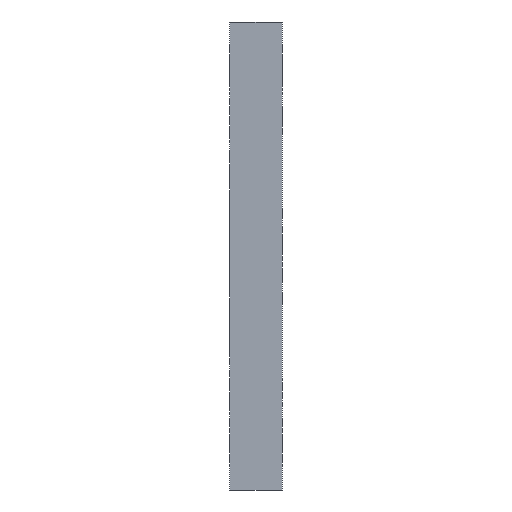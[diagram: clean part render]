
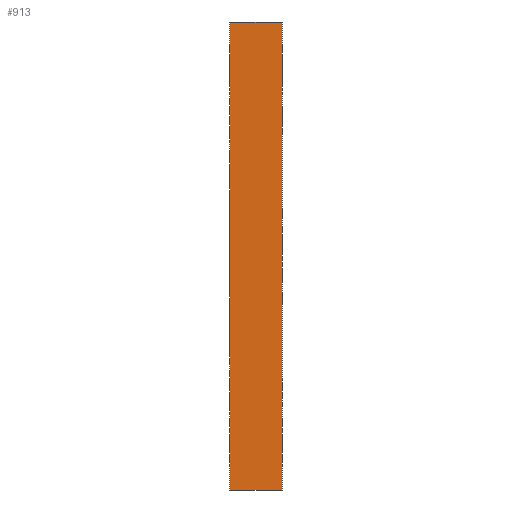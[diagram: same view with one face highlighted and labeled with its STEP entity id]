
A CAD part, front view. The second image highlights one B-rep face of the part: STEP entity #913.
In plain terms, the highlighted planar face has unit normal (0, -1, 0).
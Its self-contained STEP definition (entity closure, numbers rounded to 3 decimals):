
#4 = CARTESIAN_POINT ( 'NONE',  ( -22., -103., -98. ) ) ;
#21 = CARTESIAN_POINT ( 'NONE',  ( 0., -103., 0. ) ) ;
#35 = EDGE_CURVE ( 'NONE', #225, #558, #795, .T. ) ;
#52 = CARTESIAN_POINT ( 'NONE',  ( -22., -103., 98. ) ) ;
#143 = CARTESIAN_POINT ( 'NONE',  ( -11., -103., 0. ) ) ;
#225 = VERTEX_POINT ( 'NONE', #52 ) ;
#300 = ORIENTED_EDGE ( 'NONE', *, *, #630, .F. ) ;
#309 = EDGE_LOOP ( 'NONE', ( #1440, #1323, #300, #434 ) ) ;
#370 = VECTOR ( 'NONE', #937, 1000. ) ;
#379 = PLANE ( 'NONE',  #1519 ) ;
#434 = ORIENTED_EDGE ( 'NONE', *, *, #1022, .F. ) ;
#504 = EDGE_CURVE ( 'NONE', #1733, #558, #1215, .T. ) ;
#531 = VECTOR ( 'NONE', #657, 1000. ) ;
#558 = VERTEX_POINT ( 'NONE', #4 ) ;
#630 = EDGE_CURVE ( 'NONE', #1194, #1733, #986, .T. ) ;
#641 = DIRECTION ( 'NONE',  ( 0., 0., -1. ) ) ;
#657 = DIRECTION ( 'NONE',  ( -1., 0., 0. ) ) ;
#790 = LINE ( 'NONE', #1328, #370 ) ;
#795 = LINE ( 'NONE', #1610, #1227 ) ;
#913 = ADVANCED_FACE ( 'NONE', ( #1732 ), #379, .T. ) ;
#937 = DIRECTION ( 'NONE',  ( 1., 0., 0. ) ) ;
#986 = LINE ( 'NONE', #21, #1145 ) ;
#1022 = EDGE_CURVE ( 'NONE', #225, #1194, #790, .T. ) ;
#1079 = DIRECTION ( 'NONE',  ( 0., -1., 0. ) ) ;
#1145 = VECTOR ( 'NONE', #1493, 1000. ) ;
#1194 = VERTEX_POINT ( 'NONE', #1658 ) ;
#1215 = LINE ( 'NONE', #1331, #531 ) ;
#1227 = VECTOR ( 'NONE', #1324, 1000. ) ;
#1323 = ORIENTED_EDGE ( 'NONE', *, *, #504, .F. ) ;
#1324 = DIRECTION ( 'NONE',  ( 0., 0., -1. ) ) ;
#1328 = CARTESIAN_POINT ( 'NONE',  ( -11., -103., 98. ) ) ;
#1331 = CARTESIAN_POINT ( 'NONE',  ( -11., -103., -98. ) ) ;
#1440 = ORIENTED_EDGE ( 'NONE', *, *, #35, .T. ) ;
#1469 = CARTESIAN_POINT ( 'NONE',  ( 0., -103., -98. ) ) ;
#1493 = DIRECTION ( 'NONE',  ( 0., 0., -1. ) ) ;
#1519 = AXIS2_PLACEMENT_3D ( 'NONE', #143, #1079, #641 ) ;
#1610 = CARTESIAN_POINT ( 'NONE',  ( -22., -103., 0. ) ) ;
#1658 = CARTESIAN_POINT ( 'NONE',  ( 0., -103., 98. ) ) ;
#1732 = FACE_OUTER_BOUND ( 'NONE', #309, .T. ) ;
#1733 = VERTEX_POINT ( 'NONE', #1469 ) ;
